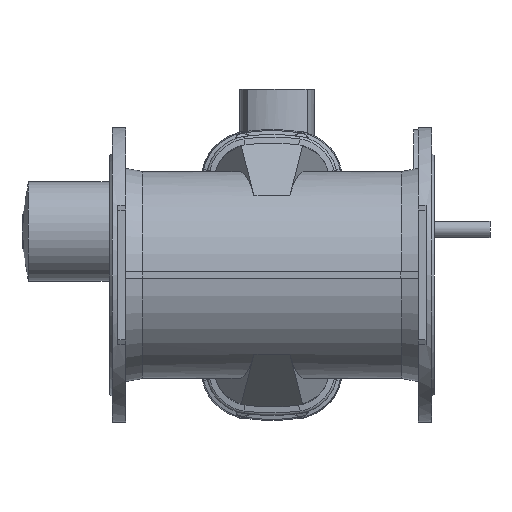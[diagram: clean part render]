
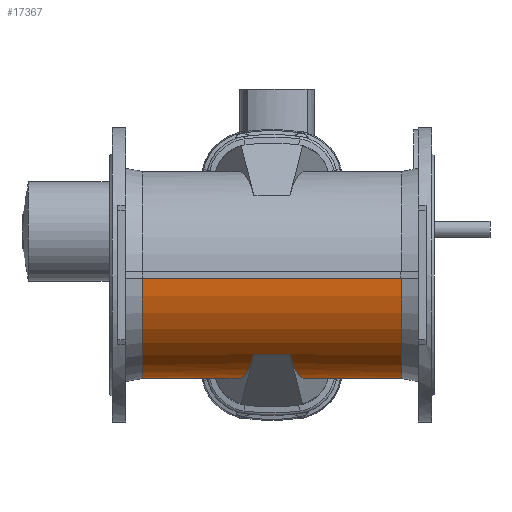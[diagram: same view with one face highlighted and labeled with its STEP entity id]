
A CAD part, front view. The second image highlights one B-rep face of the part: STEP entity #17367.
In plain terms, the highlighted cylindrical face has radius 159.5 mm (diameter 319 mm), a partial arc.
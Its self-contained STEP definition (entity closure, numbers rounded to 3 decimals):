
#215 = EDGE_CURVE ( 'NONE', #8427, #8780, #16677, .T. ) ;
#300 = EDGE_CURVE ( 'NONE', #8827, #8822, #2034, .T. ) ;
#301 = EDGE_CURVE ( 'NONE', #8827, #8735, #2032, .T. ) ;
#302 = EDGE_CURVE ( 'NONE', #8735, #8495, #2035, .T. ) ;
#303 = EDGE_CURVE ( 'NONE', #8495, #8496, #2038, .T. ) ;
#304 = EDGE_CURVE ( 'NONE', #8496, #8612, #16710, .T. ) ;
#305 = EDGE_CURVE ( 'NONE', #8780, #8612, #2036, .T. ) ;
#306 = EDGE_CURVE ( 'NONE', #8822, #8427, #2041, .T. ) ;
#2032 = LINE ( 'NONE', #9692, #2037 ) ;
#2034 = CIRCLE ( 'NONE', #7889, 159.5 ) ;
#2035 = CIRCLE ( 'NONE', #7893, 159.5 ) ;
#2036 = LINE ( 'NONE', #9706, #2039 ) ;
#2037 = VECTOR ( 'NONE', #9688, 1000. ) ;
#2038 = LINE ( 'NONE', #9696, #2040 ) ;
#2039 = VECTOR ( 'NONE', #9707, 1000. ) ;
#2040 = VECTOR ( 'NONE', #9691, 1000. ) ;
#2041 = LINE ( 'NONE', #9708, #2043 ) ;
#2043 = VECTOR ( 'NONE', #9709, 1000. ) ;
#3111 = ORIENTED_EDGE ( 'NONE', *, *, #215, .F. ) ;
#3112 = ORIENTED_EDGE ( 'NONE', *, *, #306, .F. ) ;
#3630 = EDGE_LOOP ( 'NONE', ( #8870, #8871, #8872, #8873, #8874, #8875, #3111, #3112 ) ) ;
#5016 = CARTESIAN_POINT ( 'NONE',  ( 86.841, 159.422, -5. ) ) ;
#5084 = CARTESIAN_POINT ( 'NONE',  ( -199.777, 159.422, -5. ) ) ;
#5085 = CARTESIAN_POINT ( 'NONE',  ( -86.841, 159.422, -5. ) ) ;
#5201 = CARTESIAN_POINT ( 'NONE',  ( -27.721, -102.525, -122.184 ) ) ;
#5324 = CARTESIAN_POINT ( 'NONE',  ( -199.777, -159.422, -5. ) ) ;
#5369 = CARTESIAN_POINT ( 'NONE',  ( 27.721, -102.525, -122.184 ) ) ;
#5411 = CARTESIAN_POINT ( 'NONE',  ( 199.777, 159.422, -5. ) ) ;
#5416 = CARTESIAN_POINT ( 'NONE',  ( 199.777, -159.422, -5. ) ) ;
#7889 = AXIS2_PLACEMENT_3D ( 'NONE', #9693, #9694, #9695 ) ;
#7893 = AXIS2_PLACEMENT_3D ( 'NONE', #9699, #9700, #9701 ) ;
#8427 = VERTEX_POINT ( 'NONE', #5016 ) ;
#8495 = VERTEX_POINT ( 'NONE', #5084 ) ;
#8496 = VERTEX_POINT ( 'NONE', #5085 ) ;
#8612 = VERTEX_POINT ( 'NONE', #5201 ) ;
#8735 = VERTEX_POINT ( 'NONE', #5324 ) ;
#8780 = VERTEX_POINT ( 'NONE', #5369 ) ;
#8822 = VERTEX_POINT ( 'NONE', #5411 ) ;
#8827 = VERTEX_POINT ( 'NONE', #5416 ) ;
#8870 = ORIENTED_EDGE ( 'NONE', *, *, #300, .F. ) ;
#8871 = ORIENTED_EDGE ( 'NONE', *, *, #301, .T. ) ;
#8872 = ORIENTED_EDGE ( 'NONE', *, *, #302, .T. ) ;
#8873 = ORIENTED_EDGE ( 'NONE', *, *, #303, .T. ) ;
#8874 = ORIENTED_EDGE ( 'NONE', *, *, #304, .T. ) ;
#8875 = ORIENTED_EDGE ( 'NONE', *, *, #305, .F. ) ;
#9688 = DIRECTION ( 'NONE',  ( -1., 0., 0. ) ) ;
#9691 = DIRECTION ( 'NONE',  ( 1., 0., 0. ) ) ;
#9692 = CARTESIAN_POINT ( 'NONE',  ( 83., -159.422, -5. ) ) ;
#9693 = CARTESIAN_POINT ( 'NONE',  ( 199.777, 0., 0. ) ) ;
#9694 = DIRECTION ( 'NONE',  ( 1., 0., 0. ) ) ;
#9695 = DIRECTION ( 'NONE',  ( 0., 0., -1. ) ) ;
#9696 = CARTESIAN_POINT ( 'NONE',  ( -83., 159.422, -5. ) ) ;
#9697 = CARTESIAN_POINT ( 'NONE',  ( -84.408, 154.62, -158.091 ) ) ;
#9698 = CARTESIAN_POINT ( 'NONE',  ( -52.853, 14.807, -220.637 ) ) ;
#9699 = CARTESIAN_POINT ( 'NONE',  ( -199.777, 0., 0. ) ) ;
#9700 = DIRECTION ( 'NONE',  ( 1., 0., 0. ) ) ;
#9701 = DIRECTION ( 'NONE',  ( 0., 0., -1. ) ) ;
#9703 = CARTESIAN_POINT ( 'NONE',  ( -86.841, 159.422, -5. ) ) ;
#9705 = CARTESIAN_POINT ( 'NONE',  ( -27.721, -102.525, -122.184 ) ) ;
#9706 = CARTESIAN_POINT ( 'NONE',  ( 83., -102.525, -122.184 ) ) ;
#9707 = DIRECTION ( 'NONE',  ( -1., 0., 0. ) ) ;
#9708 = CARTESIAN_POINT ( 'NONE',  ( 83., 159.422, -5. ) ) ;
#9709 = DIRECTION ( 'NONE',  ( -1., 0., 0. ) ) ;
#13953 = FACE_OUTER_BOUND ( 'NONE', #3630, .T. ) ;
#13962 = CYLINDRICAL_SURFACE ( 'NONE', #14667, 159.5 ) ;
#14667 = AXIS2_PLACEMENT_3D ( 'NONE', #15635, #15633, #15631 ) ;
#15631 = DIRECTION ( 'NONE',  ( 0., 0., 1. ) ) ;
#15633 = DIRECTION ( 'NONE',  ( -1., 0., 0. ) ) ;
#15635 = CARTESIAN_POINT ( 'NONE',  ( 83., 0., 0. ) ) ;
#16677 =( BOUNDED_CURVE ( )  B_SPLINE_CURVE ( 3, ( #18465, #18462, #18449, #18466 ),
 .UNSPECIFIED., .F., .T. ) 
 B_SPLINE_CURVE_WITH_KNOTS ( ( 4, 4 ),
 ( 3.213, 5.451 ),
 .UNSPECIFIED. ) 
 CURVE ( )  GEOMETRIC_REPRESENTATION_ITEM ( )  RATIONAL_B_SPLINE_CURVE ( ( 1., 0.625, 0.625, 1. ) ) 
 REPRESENTATION_ITEM ( '' )  );
#16710 =( BOUNDED_CURVE ( )  B_SPLINE_CURVE ( 3, ( #9703, #9697, #9698, #9705 ),
 .UNSPECIFIED., .F., .F. ) 
 B_SPLINE_CURVE_WITH_KNOTS ( ( 4, 4 ),
 ( 3.213, 5.451 ),
 .UNSPECIFIED. ) 
 CURVE ( )  GEOMETRIC_REPRESENTATION_ITEM ( )  RATIONAL_B_SPLINE_CURVE ( ( 1., 0.625, 0.625, 1. ) ) 
 REPRESENTATION_ITEM ( '' )  );
#17367 = ADVANCED_FACE ( 'NONE', ( #13953 ), #13962, .T. ) ;
#18449 = CARTESIAN_POINT ( 'NONE',  ( 52.853, 14.807, -220.637 ) ) ;
#18462 = CARTESIAN_POINT ( 'NONE',  ( 84.408, 154.62, -158.091 ) ) ;
#18465 = CARTESIAN_POINT ( 'NONE',  ( 86.841, 159.422, -5. ) ) ;
#18466 = CARTESIAN_POINT ( 'NONE',  ( 27.721, -102.525, -122.184 ) ) ;
